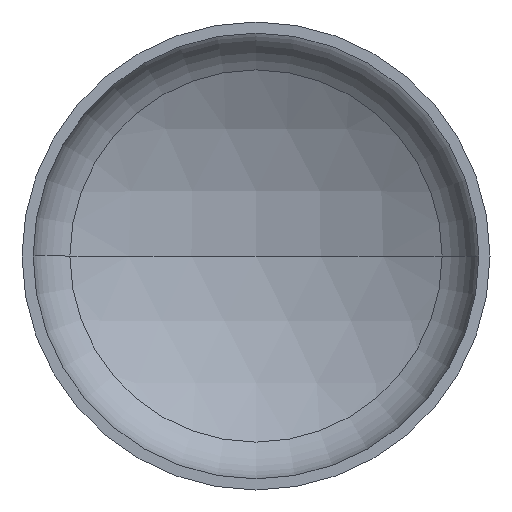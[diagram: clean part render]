
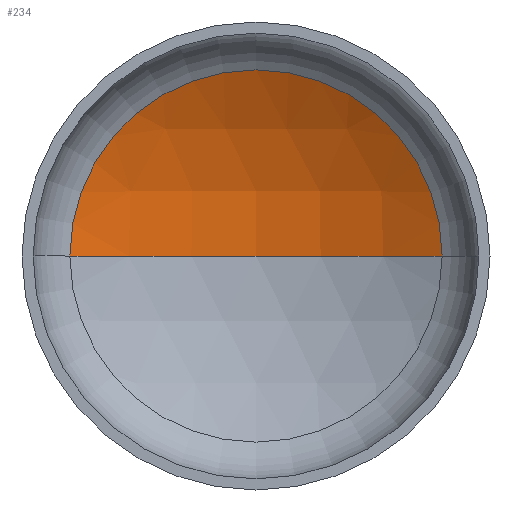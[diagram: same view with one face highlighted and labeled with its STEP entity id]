
A CAD part, front view. The second image highlights one B-rep face of the part: STEP entity #234.
In plain terms, the highlighted spherical face has radius 640 mm.
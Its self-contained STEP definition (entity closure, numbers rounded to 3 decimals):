
#21 = DIRECTION ( 'NONE',  ( 0., 0., -1. ) ) ;
#35 = AXIS2_PLACEMENT_3D ( 'NONE', #148, #21, #335 ) ;
#50 = AXIS2_PLACEMENT_3D ( 'NONE', #209, #395, #407 ) ;
#56 = AXIS2_PLACEMENT_3D ( 'NONE', #382, #383, #111 ) ;
#57 = VERTEX_POINT ( 'NONE', #185 ) ;
#60 = AXIS2_PLACEMENT_3D ( 'NONE', #244, #211, #282 ) ;
#93 = EDGE_CURVE ( 'NONE', #112, #162, #343, .T. ) ;
#100 = ORIENTED_EDGE ( 'NONE', *, *, #93, .T. ) ;
#104 = EDGE_CURVE ( 'NONE', #57, #112, #389, .T. ) ;
#111 = DIRECTION ( 'NONE',  ( -1., 0., 0. ) ) ;
#112 = VERTEX_POINT ( 'NONE', #360 ) ;
#119 = EDGE_CURVE ( 'NONE', #57, #162, #274, .T. ) ;
#134 = ORIENTED_EDGE ( 'NONE', *, *, #104, .T. ) ;
#148 = CARTESIAN_POINT ( 'NONE',  ( 0., -386.866, 0. ) ) ;
#153 = ORIENTED_EDGE ( 'NONE', *, *, #119, .F. ) ;
#162 = VERTEX_POINT ( 'NONE', #237 ) ;
#185 = CARTESIAN_POINT ( 'NONE',  ( 0., 253.134, 0. ) ) ;
#199 = FACE_OUTER_BOUND ( 'NONE', #371, .T. ) ;
#209 = CARTESIAN_POINT ( 'NONE',  ( 0., -386.866, 0. ) ) ;
#211 = DIRECTION ( 'NONE',  ( 0., -1., 0. ) ) ;
#234 = ADVANCED_FACE ( 'NONE', ( #199 ), #320, .F. ) ;
#237 = CARTESIAN_POINT ( 'NONE',  ( -318.136, 168.463, 0. ) ) ;
#244 = CARTESIAN_POINT ( 'NONE',  ( 0., 168.463, 0. ) ) ;
#274 = CIRCLE ( 'NONE', #50, 640. ) ;
#282 = DIRECTION ( 'NONE',  ( 1., 0., 0. ) ) ;
#320 = SPHERICAL_SURFACE ( 'NONE', #35, 640. ) ;
#335 = DIRECTION ( 'NONE',  ( -1., 0., 0. ) ) ;
#343 = CIRCLE ( 'NONE', #60, 318.136 ) ;
#360 = CARTESIAN_POINT ( 'NONE',  ( 318.136, 168.463, 0. ) ) ;
#371 = EDGE_LOOP ( 'NONE', ( #153, #134, #100 ) ) ;
#382 = CARTESIAN_POINT ( 'NONE',  ( 0., -386.866, 0. ) ) ;
#383 = DIRECTION ( 'NONE',  ( 0., 0., -1. ) ) ;
#389 = CIRCLE ( 'NONE', #56, 640. ) ;
#395 = DIRECTION ( 'NONE',  ( 0., 0., 1. ) ) ;
#407 = DIRECTION ( 'NONE',  ( 1., 0., 0. ) ) ;
